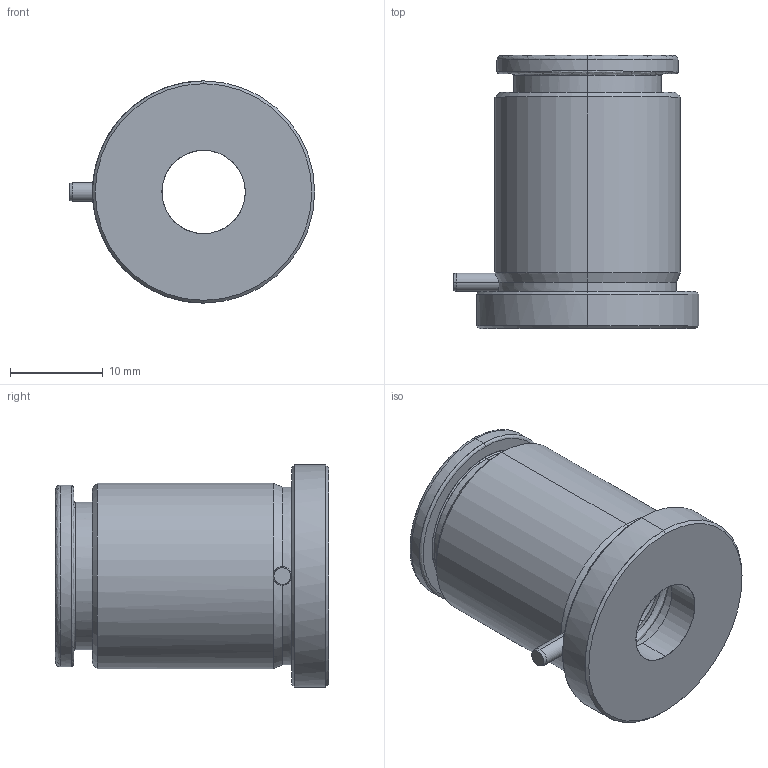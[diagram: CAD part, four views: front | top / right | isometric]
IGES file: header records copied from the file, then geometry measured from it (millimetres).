
Start section: START RECORD GO HERE.
Global section: file name: ba122024.igs; native system: DASSAULT SYSTEMES CATIA V5 R20 - www.3ds.com; preprocessor: CATIA Version 5 Release 20 ; author: Utente; organization: NB04-ASUS; date: 20201103.203516; units: millimetre
Bounding box: 26.5 x 29.5 x 24 mm (x, y, z)
Surface area: 6959.4 mm2 (no closed solid volume)
Topology: 0 solids, 0 shells, 351 faces, 1688 edges, 1590 vertices
Faces by surface type: revolution 281, bspline 54, plane 16
